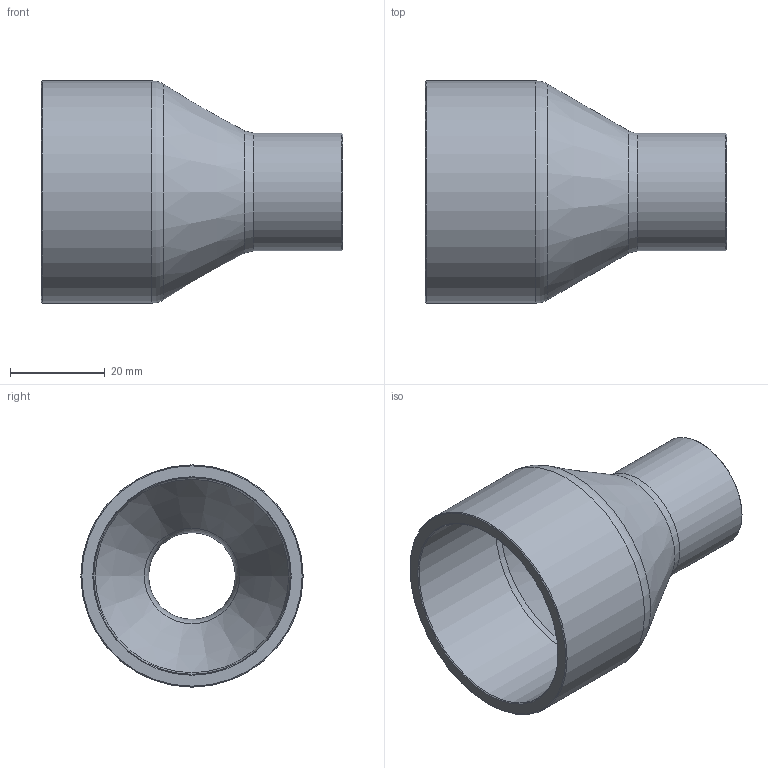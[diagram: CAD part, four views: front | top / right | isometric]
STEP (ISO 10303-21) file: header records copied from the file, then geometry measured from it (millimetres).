
FILE_DESCRIPTION((''),'2;1');
FILE_NAME('G:\SANHA-Ternat\Technik\Management\Bouwmaten + markeringen\z-maattekeningen 3D\29000s\2924015834_3d.stp','2017-08-04T11:49:59',('vdvijverd'),(''),'Autodesk Inventor 2009','Autodesk Inventor 2009','');
FILE_SCHEMA(('AUTOMOTIVE_DESIGN { 1 0 10303 214 1 1 1 1 }'));
Length unit declared in the file: millimetre
Products named in the file (1): 2924015834_3d
Bounding box: 63.6 x 46.85 x 46.85 mm (x, y, z)
Volume: 19903 mm3; surface area: 14581.9 mm2
Topology: 1 solids, 1 shells, 17 faces, 32 edges, 17 vertices
Faces by surface type: cone 6, cylinder 4, bspline 3, plane 2, torus 2
Full cylindrical faces by diameter (mm): 19.17 x1, 24.77 x1, 41.455 x1, 46.855 x1
Entity records: 494 total; most frequent: CARTESIAN_POINT 184, DIRECTION 64, ORIENTED_EDGE 34, EDGE_LOOP 34, AXIS2_PLACEMENT_3D 32, VERTEX_POINT 17, CIRCLE 17, EDGE_CURVE 17
